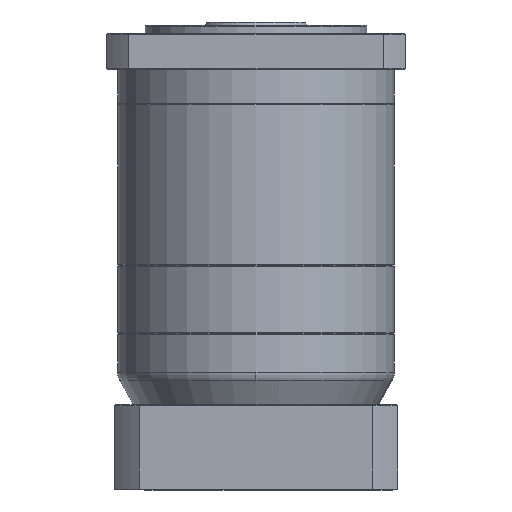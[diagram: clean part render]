
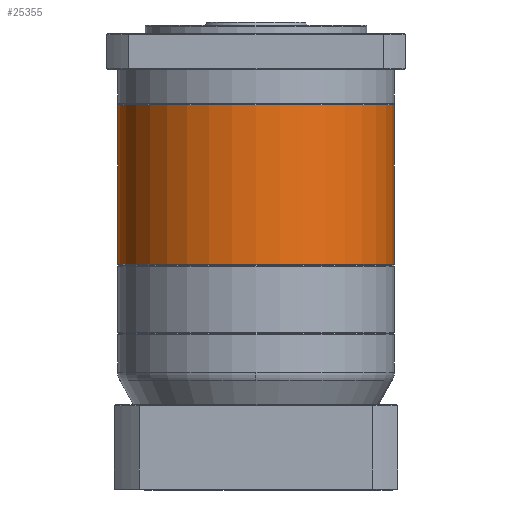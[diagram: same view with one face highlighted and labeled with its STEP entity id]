
A CAD part, front view. The second image highlights one B-rep face of the part: STEP entity #25355.
In plain terms, the highlighted cylindrical face has radius 81 mm (diameter 162 mm), a partial arc.
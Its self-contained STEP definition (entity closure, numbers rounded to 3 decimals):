
#3439 = LINE ( 'NONE', #40842, #45126 ) ;
#4270 = FACE_OUTER_BOUND ( 'NONE', #33518, .T. ) ;
#4340 = AXIS2_PLACEMENT_3D ( 'NONE', #34481, #41712, #4846 ) ;
#4507 = VERTEX_POINT ( 'NONE', #16460 ) ;
#4846 = DIRECTION ( 'NONE',  ( 1., 0., 0. ) ) ;
#12859 = CARTESIAN_POINT ( 'NONE',  ( 179.732, 48.034, 169.485 ) ) ;
#13182 = EDGE_CURVE ( 'NONE', #4507, #38191, #3439, .T. ) ;
#13557 = EDGE_CURVE ( 'NONE', #24701, #17691, #15608, .T. ) ;
#15380 = CARTESIAN_POINT ( 'NONE',  ( 260.732, 48.034, 169.485 ) ) ;
#15608 = LINE ( 'NONE', #89579, #29180 ) ;
#16460 = CARTESIAN_POINT ( 'NONE',  ( 98.732, 48.034, 75.985 ) ) ;
#17560 = EDGE_CURVE ( 'NONE', #4507, #24701, #67728, .T. ) ;
#17691 = VERTEX_POINT ( 'NONE', #15380 ) ;
#18825 = DIRECTION ( 'NONE',  ( 1., 0., 0. ) ) ;
#20991 = CARTESIAN_POINT ( 'NONE',  ( 179.732, 48.034, 75.485 ) ) ;
#23675 = ORIENTED_EDGE ( 'NONE', *, *, #71112, .T. ) ;
#24701 = VERTEX_POINT ( 'NONE', #55213 ) ;
#25355 = ADVANCED_FACE ( 'NONE', ( #4270 ), #79883, .T. ) ;
#29180 = VECTOR ( 'NONE', #92058, 1000. ) ;
#33518 = EDGE_LOOP ( 'NONE', ( #35557, #74940, #49624, #23675 ) ) ;
#34481 = CARTESIAN_POINT ( 'NONE',  ( 179.732, 48.034, 75.985 ) ) ;
#35155 = DIRECTION ( 'NONE',  ( 0., 0., 1. ) ) ;
#35510 = DIRECTION ( 'NONE',  ( 1., 0., 0. ) ) ;
#35557 = ORIENTED_EDGE ( 'NONE', *, *, #13182, .F. ) ;
#38191 = VERTEX_POINT ( 'NONE', #41359 ) ;
#40842 = CARTESIAN_POINT ( 'NONE',  ( 98.732, 48.034, 75.485 ) ) ;
#41359 = CARTESIAN_POINT ( 'NONE',  ( 98.732, 48.034, 169.485 ) ) ;
#41712 = DIRECTION ( 'NONE',  ( 0., 0., 1. ) ) ;
#45126 = VECTOR ( 'NONE', #35155, 1000. ) ;
#49624 = ORIENTED_EDGE ( 'NONE', *, *, #13557, .T. ) ;
#55213 = CARTESIAN_POINT ( 'NONE',  ( 260.732, 48.034, 75.985 ) ) ;
#63226 = AXIS2_PLACEMENT_3D ( 'NONE', #20991, #78696, #35510 ) ;
#67728 = CIRCLE ( 'NONE', #4340, 81. ) ;
#69655 = AXIS2_PLACEMENT_3D ( 'NONE', #12859, #77143, #18825 ) ;
#71112 = EDGE_CURVE ( 'NONE', #17691, #38191, #72973, .T. ) ;
#72973 = CIRCLE ( 'NONE', #69655, 81. ) ;
#74940 = ORIENTED_EDGE ( 'NONE', *, *, #17560, .T. ) ;
#77143 = DIRECTION ( 'NONE',  ( 0., 0., -1. ) ) ;
#78696 = DIRECTION ( 'NONE',  ( 0., 0., 1. ) ) ;
#79883 = CYLINDRICAL_SURFACE ( 'NONE', #63226, 81. ) ;
#89579 = CARTESIAN_POINT ( 'NONE',  ( 260.732, 48.034, 75.485 ) ) ;
#92058 = DIRECTION ( 'NONE',  ( 0., 0., 1. ) ) ;
